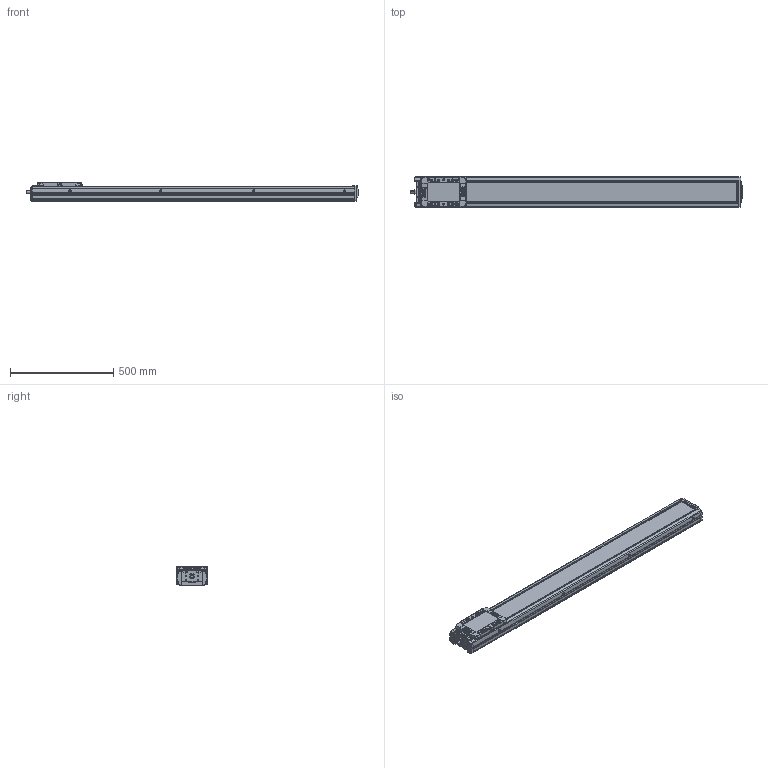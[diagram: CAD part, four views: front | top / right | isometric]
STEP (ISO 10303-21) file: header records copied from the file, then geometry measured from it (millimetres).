
FILE_DESCRIPTION(('STEP AP214'),'1');
FILE_NAME('Z:/Web/3D/SAN150/2013.04 (STP.)/SAN150ㅁㅁ-1300.stp','2013-05-07T08:29:49',(' '),(' '),'Spatial InterOp 3D',' ',' ');
FILE_SCHEMA(('automotive_design'));
Length unit declared in the file: millimetre
Products named in the file (39): SLBL-SAN150; SLCV-SAN150; FHCS M4.0 x 8.0; BHCS M4.0 x 10.0; SFX-SAN150; RRCV-SAN150; FRBL-SAN150; Spacer; RN15; FRCV-SAN150; Screw 20; BASE-SAN150-000L ; SUS COVER; 스크루 : Round - M5.0 x 6.0
Bounding box: 1608 x 150 x 90 mm (x, y, z)
Volume: 8194856 mm3; surface area: 1505915.6 mm2
Topology: 39 solids, 39 shells, 2277 faces, 5865 edges, 3726 vertices
Faces by surface type: plane 1045, cylinder 837, cone 306, sphere 56, bspline 21, torus 12
Entity records: 90985 total; most frequent: CARTESIAN_POINT 15457, DIRECTION 12430, ORIENTED_EDGE 11458, EDGE_CURVE 5729, AXIS2_PLACEMENT_3D 4526, VERTEX_POINT 3726, LINE 3378, VECTOR 3378
